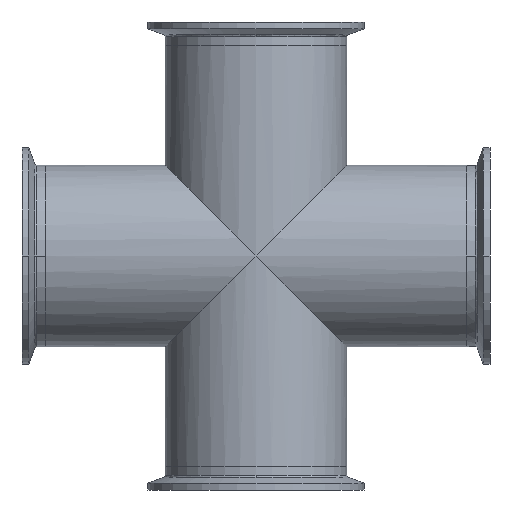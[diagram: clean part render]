
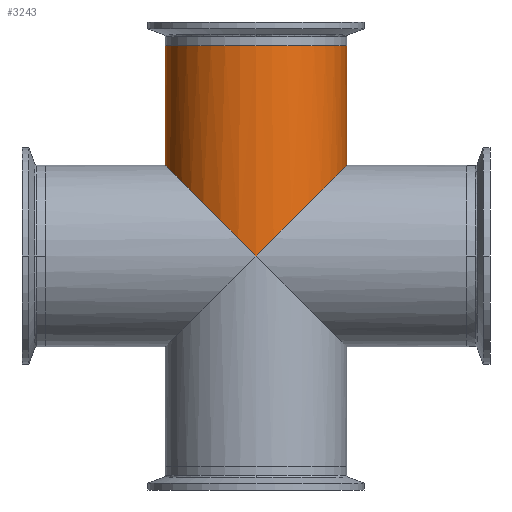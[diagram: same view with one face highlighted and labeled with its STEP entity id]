
A CAD part, front view. The second image highlights one B-rep face of the part: STEP entity #3243.
In plain terms, the highlighted cylindrical face has radius 38.1 mm (diameter 76.2 mm), a partial arc.
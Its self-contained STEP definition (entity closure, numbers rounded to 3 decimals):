
#395 = CARTESIAN_POINT ( 'NONE',  ( -38.1, 0., 88.425 ) ) ;
#413 = VECTOR ( 'NONE', #2710, 1000. ) ;
#455 = VECTOR ( 'NONE', #6004, 1000. ) ;
#559 = EDGE_CURVE ( 'NONE', #4856, #2781, #3095, .T. ) ;
#608 = CARTESIAN_POINT ( 'NONE',  ( 38.1, 0., 38.1 ) ) ;
#748 = CARTESIAN_POINT ( 'NONE',  ( 0., 0., -88.425 ) ) ;
#991 = EDGE_CURVE ( 'NONE', #2743, #2781, #3022, .T. ) ;
#995 = CARTESIAN_POINT ( 'NONE',  ( -38.1, 0., 38.1 ) ) ;
#1097 = CARTESIAN_POINT ( 'NONE',  ( 22.318, -38.1, 22.318 ) ) ;
#1136 = ORIENTED_EDGE ( 'NONE', *, *, #559, .F. ) ;
#1309 = CARTESIAN_POINT ( 'NONE',  ( 0., -38.1, 0. ) ) ;
#1372 =( BOUNDED_CURVE ( )  B_SPLINE_CURVE ( 3, ( #3094, #1097, #3650, #608 ),
 .UNSPECIFIED., .F., .T. ) 
 B_SPLINE_CURVE_WITH_KNOTS ( ( 4, 4 ),
 ( 4.712, 6.283 ),
 .UNSPECIFIED. ) 
 CURVE ( )  GEOMETRIC_REPRESENTATION_ITEM ( )  RATIONAL_B_SPLINE_CURVE ( ( 1., 0.805, 0.805, 1. ) ) 
 REPRESENTATION_ITEM ( '' )  );
#1879 = CARTESIAN_POINT ( 'NONE',  ( 38.1, 0., -88.425 ) ) ;
#2196 = CYLINDRICAL_SURFACE ( 'NONE', #6030, 38.1 ) ;
#2371 = CARTESIAN_POINT ( 'NONE',  ( -22.318, -38.1, 22.318 ) ) ;
#2433 = ORIENTED_EDGE ( 'NONE', *, *, #991, .T. ) ;
#2638 = CARTESIAN_POINT ( 'NONE',  ( 38.1, 0., 38.1 ) ) ;
#2671 = CARTESIAN_POINT ( 'NONE',  ( 0., 0., 88.425 ) ) ;
#2710 = DIRECTION ( 'NONE',  ( 0., 0., 1. ) ) ;
#2743 = VERTEX_POINT ( 'NONE', #3042 ) ;
#2781 = VERTEX_POINT ( 'NONE', #395 ) ;
#2809 = AXIS2_PLACEMENT_3D ( 'NONE', #2671, #3097, #3589 ) ;
#3022 = CIRCLE ( 'NONE', #2809, 38.1 ) ;
#3042 = CARTESIAN_POINT ( 'NONE',  ( 38.1, 0., 88.425 ) ) ;
#3094 = CARTESIAN_POINT ( 'NONE',  ( 0., -38.1, 0. ) ) ;
#3095 = LINE ( 'NONE', #3558, #413 ) ;
#3097 = DIRECTION ( 'NONE',  ( 0., 0., -1. ) ) ;
#3133 = VERTEX_POINT ( 'NONE', #2638 ) ;
#3243 = ADVANCED_FACE ( 'NONE', ( #5089 ), #2196, .T. ) ;
#3395 = CARTESIAN_POINT ( 'NONE',  ( -38.1, 0., 38.1 ) ) ;
#3558 = CARTESIAN_POINT ( 'NONE',  ( -38.1, 0., -88.425 ) ) ;
#3589 = DIRECTION ( 'NONE',  ( 1., 0., 0. ) ) ;
#3647 = EDGE_CURVE ( 'NONE', #4227, #4856, #4262, .T. ) ;
#3650 = CARTESIAN_POINT ( 'NONE',  ( 38.1, -22.318, 38.1 ) ) ;
#4227 = VERTEX_POINT ( 'NONE', #6588 ) ;
#4262 =( BOUNDED_CURVE ( )  B_SPLINE_CURVE ( 3, ( #1309, #2371, #6484, #3395 ),
 .UNSPECIFIED., .F., .T. ) 
 B_SPLINE_CURVE_WITH_KNOTS ( ( 4, 4 ),
 ( 4.712, 6.283 ),
 .UNSPECIFIED. ) 
 CURVE ( )  GEOMETRIC_REPRESENTATION_ITEM ( )  RATIONAL_B_SPLINE_CURVE ( ( 1., 0.805, 0.805, 1. ) ) 
 REPRESENTATION_ITEM ( '' )  );
#4308 = DIRECTION ( 'NONE',  ( 1., 0., 0. ) ) ;
#4512 = LINE ( 'NONE', #1879, #455 ) ;
#4720 = EDGE_CURVE ( 'NONE', #3133, #2743, #4512, .T. ) ;
#4837 = EDGE_LOOP ( 'NONE', ( #1136, #5962, #4896, #5063, #2433 ) ) ;
#4856 = VERTEX_POINT ( 'NONE', #995 ) ;
#4896 = ORIENTED_EDGE ( 'NONE', *, *, #5074, .T. ) ;
#5063 = ORIENTED_EDGE ( 'NONE', *, *, #4720, .T. ) ;
#5074 = EDGE_CURVE ( 'NONE', #4227, #3133, #1372, .T. ) ;
#5089 = FACE_OUTER_BOUND ( 'NONE', #4837, .T. ) ;
#5962 = ORIENTED_EDGE ( 'NONE', *, *, #3647, .F. ) ;
#6004 = DIRECTION ( 'NONE',  ( 0., 0., 1. ) ) ;
#6030 = AXIS2_PLACEMENT_3D ( 'NONE', #748, #6373, #4308 ) ;
#6373 = DIRECTION ( 'NONE',  ( 0., 0., 1. ) ) ;
#6484 = CARTESIAN_POINT ( 'NONE',  ( -38.1, -22.318, 38.1 ) ) ;
#6588 = CARTESIAN_POINT ( 'NONE',  ( 0., -38.1, 0. ) ) ;
